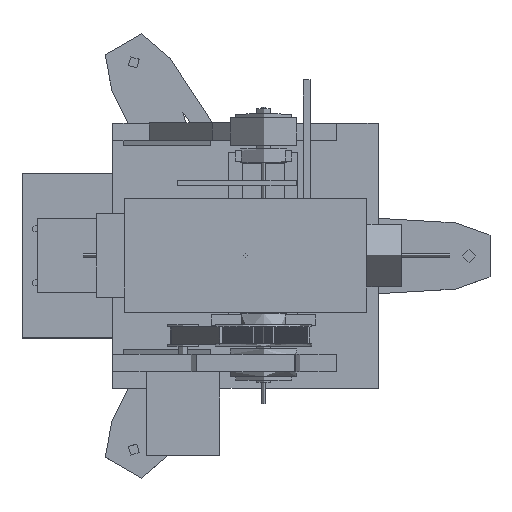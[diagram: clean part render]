
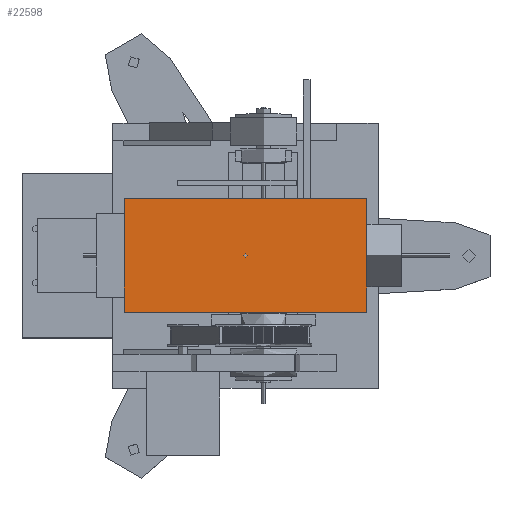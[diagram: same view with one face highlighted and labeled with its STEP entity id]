
A CAD part, top view. The second image highlights one B-rep face of the part: STEP entity #22598.
In plain terms, the highlighted planar face has unit normal (0, 0, 1).
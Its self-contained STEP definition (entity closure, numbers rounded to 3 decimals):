
#22469 = VERTEX_POINT('',#22470);
#22470 = CARTESIAN_POINT('',(-69.5,-32.5,215.5));
#22485 = VERTEX_POINT('',#22486);
#22486 = CARTESIAN_POINT('',(-69.5,32.5,215.5));
#22492 = EDGE_CURVE('',#22469,#22485,#22493,.T.);
#22493 = LINE('',#22494,#22495);
#22494 = CARTESIAN_POINT('',(-69.5,-32.5,215.5));
#22495 = VECTOR('',#22496,1.);
#22496 = DIRECTION('',(-0.,1.,0.));
#22509 = VERTEX_POINT('',#22510);
#22510 = CARTESIAN_POINT('',(69.5,-32.5,215.5));
#22525 = VERTEX_POINT('',#22526);
#22526 = CARTESIAN_POINT('',(69.5,32.5,215.5));
#22532 = EDGE_CURVE('',#22509,#22525,#22533,.T.);
#22533 = LINE('',#22534,#22535);
#22534 = CARTESIAN_POINT('',(69.5,-32.5,215.5));
#22535 = VECTOR('',#22536,1.);
#22536 = DIRECTION('',(-0.,1.,0.));
#22553 = EDGE_CURVE('',#22469,#22509,#22554,.T.);
#22554 = LINE('',#22555,#22556);
#22555 = CARTESIAN_POINT('',(-69.5,-32.5,215.5));
#22556 = VECTOR('',#22557,1.);
#22557 = DIRECTION('',(1.,0.,-0.));
#22575 = EDGE_CURVE('',#22485,#22525,#22576,.T.);
#22576 = LINE('',#22577,#22578);
#22577 = CARTESIAN_POINT('',(-69.5,32.5,215.5));
#22578 = VECTOR('',#22579,1.);
#22579 = DIRECTION('',(1.,0.,-0.));
#22598 = ADVANCED_FACE('',(#22599),#22605,.T.);
#22599 = FACE_BOUND('',#22600,.T.);
#22600 = EDGE_LOOP('',(#22601,#22602,#22603,#22604));
#22601 = ORIENTED_EDGE('',*,*,#22492,.F.);
#22602 = ORIENTED_EDGE('',*,*,#22553,.T.);
#22603 = ORIENTED_EDGE('',*,*,#22532,.T.);
#22604 = ORIENTED_EDGE('',*,*,#22575,.F.);
#22605 = PLANE('',#22606);
#22606 = AXIS2_PLACEMENT_3D('',#22607,#22608,#22609);
#22607 = CARTESIAN_POINT('',(-69.5,-32.5,215.5));
#22608 = DIRECTION('',(0.,0.,1.));
#22609 = DIRECTION('',(1.,0.,-0.));
